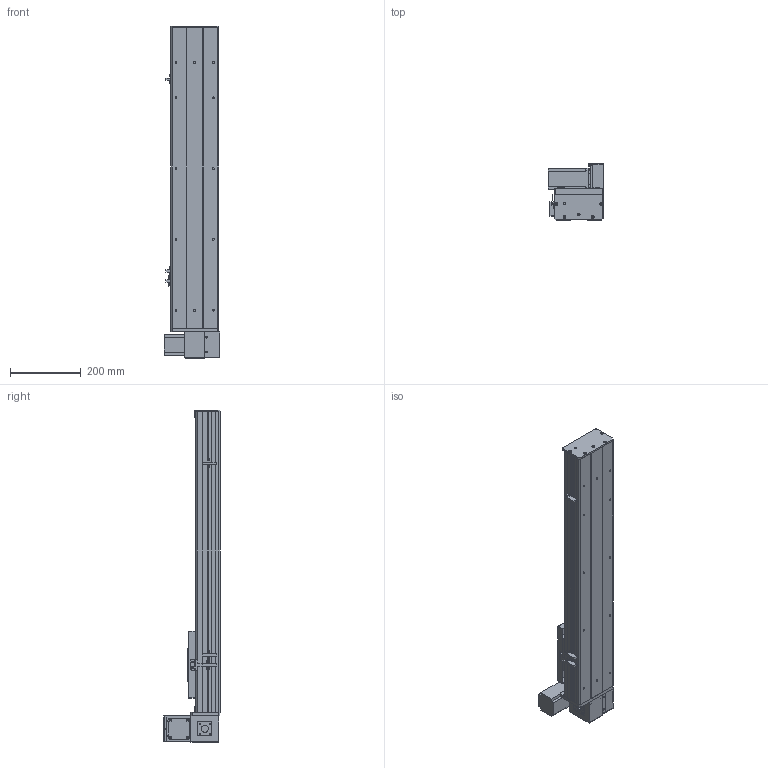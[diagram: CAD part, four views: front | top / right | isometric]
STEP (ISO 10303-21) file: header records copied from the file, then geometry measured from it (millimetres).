
FILE_DESCRIPTION (( 'STEP AP203' ), '1' );
FILE_NAME ('Y135CB-D90-S550-UL-P400W.STEP', '2020-02-18T07:08:52', ( '微软用户' ), ( '微软中国' ), 'SwSTEP 2.0', 'SolidWorks 2017', '' );
FILE_SCHEMA (( 'CONFIG_CONTROL_DESIGN' ));
Length unit declared in the file: millimetre
Products named in the file (18): Y135C-陔俋离換覜結え-; 0B-埴倛裔啣; 5C--俋欶; 0B-源倛裔啣; C-雄赽釱--; 0B-萇儂楊擘啣; Y10B-耜蚾蟀諉啣----; san松下电机400不带刹车----; 00B-俋欶BM--; 5CB --掛极耜裔啣-; Y10B--々湍喘謫眊--666; C-詩湍揤踡え-陔; Y135CB-耜裔; Y135CB-D90-S550-UL-P400W; 135CB--詩湍-CE; 135CB---遴掛极.-; Y100-135俋离換覜ん--; 35CB---喘謫眊楊擘啣
Assembly tree (21 placements, depth 2):
  Y135CB-D90-S550-UL-P400W
    Y135CB-耜裔
    135CB---遴掛极.-
    35CB---喘謫眊楊擘啣
    0B-埴倛裔啣
    0B-源倛裔啣
    0B-萇儂楊擘啣
    san松下电机400不带刹车----
    5CB --掛极耜裔啣-  x2
    C-詩湍揤踡え-陔  x2
    135CB--詩湍-CE
    Y100-135俋离換覜ん--  x3
    Y135C-陔俋离換覜結え-
    5C--俋欶
    C-雄赽釱--
    Y10B-耜蚾蟀諉啣----
    00B-俋欶BM--
    Y10B--々湍喘謫眊--666
Bounding box: 157 x 158.7 x 938 mm (x, y, z)
Volume: 3217785.7 mm3; surface area: 1247110.9 mm2
Topology: 21 solids, 21 shells, 937 faces, 2491 edges, 1650 vertices
Faces by surface type: cylinder 465, plane 456, cone 16
Entity records: 28945 total; most frequent: DIRECTION 4807, CARTESIAN_POINT 4724, ORIENTED_EDGE 4458, EDGE_CURVE 2229, AXIS2_PLACEMENT_3D 1749, VERTEX_POINT 1478, VECTOR 1309, LINE 1309
